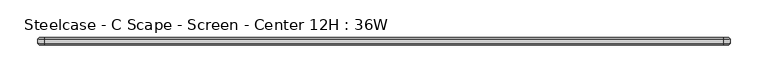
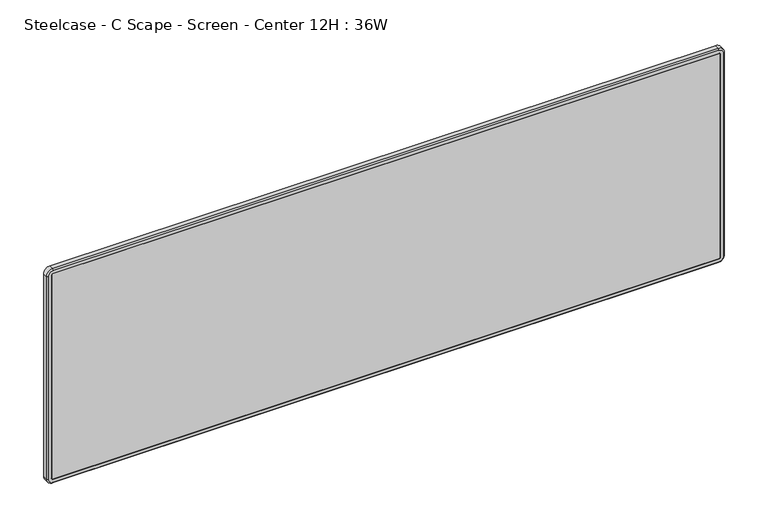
"""IFC4 building model written with IfcOpenShell, lengths in millimetres: furniture geometry, Steelcase - C Scape - Screen - Center 12H : 36W."""

from ifc_helpers import new_model, si_unit, frame, origin, place, context, project, spatial, polyline, circle_curve, outline, extrude, source, transform, mapped, element, save
from ifc_brep_helpers import plane_surface, cylinder_surface, revolved_surface, advanced_brep


def steelcase_c_scape_screen_center_12h_36w_db45eb66(model_context):
    return source(origin(), model_context, "Body", "SolidModel", [
        advanced_brep(
        [(6.3501994, -7.9375, 975.2694951), (8.21859, -7.9375, 977.1378857), (8.21859, -17.4625, 977.1378857), (6.3501994, -17.4625, 975.2694951), (0.0002237, -9.6896209, 975.2694951), (8.21859, -9.6896209, 983.4878614), (8.21859, -7.9375, 981.7357406), (1.7523445, -7.9375, 975.2694951), (0.0002237, -15.7098203, 975.2694951), (8.21859, -15.7098203, 983.4878614), (1.7529034, -17.4625, 975.2694951), (8.21859, -17.4625, 981.7351817), (6.3501994, -17.4625, 686.9063005), (6.3501994, -7.9375, 686.9063005), (1.7523445, -7.9375, 686.9063005), (0.0002237, -9.6896209, 686.9063005), (0.0002237, -15.7098203, 686.9063005), (1.7529034, -17.4625, 686.9063005), (8.21859, -7.9375, 685.0379099), (8.21859, -17.4625, 685.0379099), (8.21859, -9.6896209, 678.6879341), (8.21859, -7.9375, 680.440055), (8.21859, -15.7098203, 678.6879341), (8.21859, -17.4625, 680.4406139), (903.006615, -17.4625, 685.0379099), (903.006615, -7.9375, 685.0379099), (903.006615, -7.9375, 680.440055), (903.006615, -9.6896209, 678.6879341), (903.006615, -15.7098203, 678.6879341), (903.006615, -17.4625, 680.4406139), (904.8750056, -7.9375, 686.9063005), (904.8750056, -17.4625, 686.9063005), (911.2249814, -9.6896209, 686.9063005), (909.4728605, -7.9375, 686.9063005), (911.2249814, -15.7098203, 686.9063005), (909.4723017, -17.4625, 686.9063005), (904.8750056, -17.4625, 975.2694951), (904.8750056, -7.9375, 975.2694951), (909.4728605, -7.9375, 975.2694951), (911.2249814, -9.6896209, 975.2694951), (911.2249814, -15.7098203, 975.2694951), (909.4723017, -17.4625, 975.2694951), (903.006615, -7.9375, 977.1378857), (903.006615, -17.4625, 977.1378857), (903.006615, -7.9375, 981.7357406), (903.006615, -9.6896209, 983.4878614), (903.006615, -15.7098203, 983.4878614), (903.006615, -17.4625, 981.7351817)],
        [
            (0, 1, circle_curve(frame((8.21859, -7.9375, 975.2694951), z_axis=(0.0, 1.0, 0.0), x_axis=(0.0, 0.0, 1.0)), 1.8683906)),
            (1, 2),
            (2, 3, circle_curve(frame((8.21859, -17.4625, 975.2694951), z_axis=(0.0, -1.0, 0.0), x_axis=(0.0, 0.0, 1.0)), 1.8683906)),
            (3, 0),
            (4, 5, circle_curve(frame((8.21859, -9.6896209, 975.2694951), z_axis=(0.0, 1.0, 0.0), x_axis=(0.0, 0.0, 1.0)), 8.2183664)),
            (5, 6),
            (6, 7, circle_curve(frame((8.21859, -7.9375, 975.2694951), z_axis=(0.0, -1.0, 0.0), x_axis=(0.0, 0.0, 1.0)), 6.4662455)),
            (7, 4),
            (8, 9, circle_curve(frame((8.21859, -15.7098203, 975.2694951), z_axis=(0.0, 1.0, 0.0), x_axis=(0.0, 0.0, 1.0)), 8.2183664)),
            (9, 5),
            (4, 8),
            (10, 11, circle_curve(frame((8.21859, -17.4625, 975.2694951), z_axis=(0.0, 1.0, 0.0), x_axis=(0.0, 0.0, 1.0)), 6.4656866)),
            (11, 9),
            (8, 10),
            (3, 12),
            (12, 13),
            (13, 0),
            (7, 14),
            (14, 15),
            (15, 4),
            (15, 16),
            (16, 8),
            (16, 17),
            (17, 10),
            (18, 13, circle_curve(frame((8.21859, -7.9375, 686.9063005), z_axis=(0.0, 1.0, 0.0), x_axis=(-1.0, 0.0, 0.0)), 1.8683906)),
            (12, 19, circle_curve(frame((8.21859, -17.4625, 686.9063005), z_axis=(0.0, -1.0, 0.0), x_axis=(-1.0, 0.0, 0.0)), 1.8683906)),
            (19, 18),
            (20, 15, circle_curve(frame((8.21859, -9.6896209, 686.9063005), z_axis=(0.0, 1.0, 0.0), x_axis=(-1.0, 0.0, 0.0)), 8.2183664)),
            (14, 21, circle_curve(frame((8.21859, -7.9375, 686.9063005), z_axis=(0.0, -1.0, 0.0), x_axis=(-1.0, 0.0, 0.0)), 6.4662455)),
            (21, 20),
            (22, 16, circle_curve(frame((8.21859, -15.7098203, 686.9063005), z_axis=(0.0, 1.0, 0.0), x_axis=(-1.0, 0.0, 0.0)), 8.2183664)),
            (20, 22),
            (23, 17, circle_curve(frame((8.21859, -17.4625, 686.9063005), z_axis=(0.0, 1.0, 0.0), x_axis=(-1.0, 0.0, 0.0)), 6.4656866)),
            (22, 23),
            (19, 24),
            (24, 25),
            (25, 18),
            (21, 26),
            (26, 27),
            (27, 20),
            (27, 28),
            (28, 22),
            (28, 29),
            (29, 23),
            (30, 25, circle_curve(frame((903.006615, -7.9375, 686.9063005), z_axis=(0.0, 1.0, 0.0), x_axis=(0.0, 0.0, -1.0)), 1.8683906)),
            (24, 31, circle_curve(frame((903.006615, -17.4625, 686.9063005), z_axis=(0.0, -1.0, 0.0), x_axis=(0.0, 0.0, -1.0)), 1.8683906)),
            (31, 30),
            (32, 27, circle_curve(frame((903.006615, -9.6896209, 686.9063005), z_axis=(0.0, 1.0, 0.0), x_axis=(0.0, 0.0, -1.0)), 8.2183664)),
            (26, 33, circle_curve(frame((903.006615, -7.9375, 686.9063005), z_axis=(0.0, -1.0, 0.0), x_axis=(0.0, 0.0, -1.0)), 6.4662455)),
            (33, 32),
            (34, 28, circle_curve(frame((903.006615, -15.7098203, 686.9063005), z_axis=(0.0, 1.0, 0.0), x_axis=(0.0, 0.0, -1.0)), 8.2183664)),
            (32, 34),
            (35, 29, circle_curve(frame((903.006615, -17.4625, 686.9063005), z_axis=(0.0, 1.0, 0.0), x_axis=(0.0, 0.0, -1.0)), 6.4656866)),
            (34, 35),
            (31, 36),
            (36, 37),
            (37, 30),
            (33, 38),
            (38, 39),
            (39, 32),
            (39, 40),
            (40, 34),
            (40, 41),
            (41, 35),
            (42, 37, circle_curve(frame((903.006615, -7.9375, 975.2694951), z_axis=(0.0, 1.0, 0.0), x_axis=(1.0, 0.0, 0.0)), 1.8683906)),
            (36, 43, circle_curve(frame((903.006615, -17.4625, 975.2694951), z_axis=(0.0, -1.0, 0.0), x_axis=(1.0, 0.0, 0.0)), 1.8683906)),
            (43, 42),
            (44, 38, circle_curve(frame((903.006615, -7.9375, 975.2694951), z_axis=(0.0, 1.0, 0.0), x_axis=(1.0, 0.0, 0.0)), 6.4662455)),
            (6, 44),
            (42, 1),
            (45, 39, circle_curve(frame((903.006615, -9.6896209, 975.2694951), z_axis=(0.0, 1.0, 0.0), x_axis=(1.0, 0.0, 0.0)), 8.2183664)),
            (44, 45),
            (46, 40, circle_curve(frame((903.006615, -15.7098203, 975.2694951), z_axis=(0.0, 1.0, 0.0), x_axis=(1.0, 0.0, 0.0)), 8.2183664)),
            (45, 46),
            (47, 41, circle_curve(frame((903.006615, -17.4625, 975.2694951), z_axis=(0.0, 1.0, 0.0), x_axis=(1.0, 0.0, 0.0)), 6.4656866)),
            (46, 47),
            (47, 11),
            (2, 43),
            (5, 45),
            (9, 46),
        ],
        [
            revolved_surface(polyline([(8.21859, -17.4625, 977.1378857), (8.21859, -7.9375, 977.1378857)]), (8.21859, -7.9375, 975.2694951), (0.0, -1.0, 0.0)),
            revolved_surface(polyline([(8.21859, -7.9375, 981.7357406), (8.21859, -9.6896209, 983.4878614)]), (8.21859, -7.9375, 975.2694951), (0.0, -1.0, 0.0)),
            cylinder_surface(frame((8.21859, -7.9375, 975.2694951), z_axis=(0.0, -1.0, 0.0), x_axis=(0.0, 0.0, 1.0)), 8.2183664),
            revolved_surface(polyline([(8.21859, -15.7098203, 983.4878614), (8.21859, -17.4625, 981.7351817)]), (8.21859, -7.9375, 975.2694951), (0.0, -1.0, 0.0)),
            plane_surface(frame((6.3501994, -17.4625, 975.2694951), z_axis=(1.0, 0.0, 0.0), x_axis=(0.0, 0.0, -1.0))),
            plane_surface(frame((1.7523445, -7.9375, 975.2694951), z_axis=(-0.7071067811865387, 0.7071067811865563, 0.0), x_axis=(0.0, 0.0, -1.0))),
            plane_surface(frame((0.0002237, -9.6896209, 975.2694951), z_axis=(-1.0, 0.0, 0.0), x_axis=(0.0, 0.0, -1.0))),
            plane_surface(frame((0.0002237, -15.7098203, 975.2694951), z_axis=(-0.7071067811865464, -0.7071067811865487, 0.0), x_axis=(0.0, 0.0, -1.0))),
            revolved_surface(polyline([(6.350199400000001, -17.4625, 686.9063005), (6.350199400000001, -7.9375, 686.9063005)]), (8.21859, -7.9375, 686.9063005), (0.0, -1.0, 0.0)),
            revolved_surface(polyline([(1.7523445, -7.9375, 686.9063005), (0.0002237, -9.6896209, 686.9063005)]), (8.21859, -7.9375, 686.9063005), (0.0, -1.0, 0.0)),
            cylinder_surface(frame((8.21859, -7.9375, 686.9063005), z_axis=(0.0, -1.0, 0.0), x_axis=(-1.0, 0.0, 0.0)), 8.2183664),
            revolved_surface(polyline([(0.0002237, -15.7098203, 686.9063005), (1.7529034, -17.4625, 686.9063005)]), (8.21859, -7.9375, 686.9063005), (0.0, -1.0, 0.0)),
            plane_surface(frame((8.21859, -17.4625, 685.0379099), z_axis=(0.0, 0.0, 1.0), x_axis=(1.0, 0.0, 0.0))),
            plane_surface(frame((8.21859, -7.9375, 680.440055), z_axis=(0.0, 0.7071067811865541, -0.7071067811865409), x_axis=(1.0, 0.0, 0.0))),
            plane_surface(frame((8.21859, -9.6896209, 678.6879341), z_axis=(0.0, 0.0, -1.0), x_axis=(1.0, 0.0, 0.0))),
            plane_surface(frame((8.21859, -15.7098203, 678.6879341), z_axis=(0.0, -0.7071067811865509, -0.7071067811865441), x_axis=(1.0, 0.0, 0.0))),
            revolved_surface(polyline([(903.006615, -17.4625, 685.0379099), (903.006615, -7.9375, 685.0379099)]), (903.006615, -7.9375, 686.9063005), (0.0, -1.0, 0.0)),
            revolved_surface(polyline([(903.006615, -7.9375, 680.440055), (903.006615, -9.6896209, 678.6879341)]), (903.006615, -7.9375, 686.9063005), (0.0, -1.0, 0.0)),
            cylinder_surface(frame((903.006615, -7.9375, 686.9063005), z_axis=(0.0, -1.0, 0.0), x_axis=(0.0, 0.0, -1.0)), 8.2183664),
            revolved_surface(polyline([(903.006615, -15.7098203, 678.6879341), (903.006615, -17.4625, 680.4406139)]), (903.006615, -7.9375, 686.9063005), (0.0, -1.0, 0.0)),
            plane_surface(frame((904.8750056, -17.4625, 686.9063005), z_axis=(-1.0, 0.0, 0.0), x_axis=(0.0, 0.0, 1.0))),
            plane_surface(frame((909.4728605, -7.9375, 686.9063005), z_axis=(0.7071067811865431, 0.7071067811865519, 0.0), x_axis=(0.0, 0.0, 1.0))),
            plane_surface(frame((911.2249814, -9.6896209, 686.9063005), z_axis=(1.0, 0.0, 0.0), x_axis=(0.0, 0.0, 1.0))),
            plane_surface(frame((911.2249814, -15.7098203, 686.9063005), z_axis=(0.7071067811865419, -0.7071067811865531, 0.0), x_axis=(0.0, 0.0, 1.0))),
            revolved_surface(polyline([(904.8750056, -17.4625, 975.2694951), (904.8750056, -7.9375, 975.2694951)]), (903.006615, -7.9375, 975.2694951), (0.0, -1.0, 0.0)),
            plane_surface(frame((903.006615, -7.9375, 975.2694951), z_axis=(0.0, 1.0, 0.0), x_axis=(1.0, 0.0, 0.0))),
            revolved_surface(polyline([(909.4728605, -7.9375, 975.2694951), (911.2249814, -9.6896209, 975.2694951)]), (903.006615, -7.9375, 975.2694951), (0.0, -1.0, 0.0)),
            cylinder_surface(frame((903.006615, -7.9375, 975.2694951), z_axis=(0.0, -1.0, 0.0), x_axis=(1.0, 0.0, 0.0)), 8.2183664),
            revolved_surface(polyline([(911.2249814, -15.7098203, 975.2694951), (909.4723017, -17.4625, 975.2694951)]), (903.006615, -7.9375, 975.2694951), (0.0, -1.0, 0.0)),
            plane_surface(frame((903.006615, -17.4625, 975.2694951), z_axis=(0.0, -1.0, 0.0), x_axis=(1.0, 0.0, 0.0))),
            plane_surface(frame((903.006615, -17.4625, 977.1378857), z_axis=(0.0, 0.0, -1.0), x_axis=(-1.0, 0.0, 0.0))),
            plane_surface(frame((903.006615, -7.9375, 981.7357406), z_axis=(0.0, 0.7071067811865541, 0.7071067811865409), x_axis=(-1.0, 0.0, 0.0))),
            plane_surface(frame((903.006615, -9.6896209, 983.4878614), z_axis=(0.0, 0.0, 1.0), x_axis=(-1.0, 0.0, 0.0))),
            plane_surface(frame((903.006615, -15.7098203, 983.4878614), z_axis=(0.0, -0.7071067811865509, 0.7071067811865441), x_axis=(-1.0, 0.0, 0.0))),
        ],
        [
            (0, [[1, 2, 3, 4]]),
            (1, [[5, 6, 7, 8]]),
            (2, [[9, 10, -5, 11]]),
            (3, [[12, 13, -9, 14]]),
            (4, [[-4, 15, 16, 17]]),
            (5, [[-8, 18, 19, 20]]),
            (6, [[-11, -20, 21, 22]]),
            (7, [[-14, -22, 23, 24]]),
            (8, [[25, -16, 26, 27]]),
            (9, [[28, -19, 29, 30]]),
            (10, [[31, -21, -28, 32]]),
            (11, [[33, -23, -31, 34]]),
            (12, [[-27, 35, 36, 37]]),
            (13, [[-30, 38, 39, 40]]),
            (14, [[-32, -40, 41, 42]]),
            (15, [[-34, -42, 43, 44]]),
            (16, [[45, -36, 46, 47]]),
            (17, [[48, -39, 49, 50]]),
            (18, [[51, -41, -48, 52]]),
            (19, [[53, -43, -51, 54]]),
            (20, [[-47, 55, 56, 57]]),
            (21, [[-50, 58, 59, 60]]),
            (22, [[-52, -60, 61, 62]]),
            (23, [[-54, -62, 63, 64]]),
            (24, [[65, -56, 66, 67]]),
            (25, [[68, -58, -49, -38, -29, -18, -7, 69], [-37, -45, -57, -65, 70, -1, -17, -25]]),
            (26, [[71, -59, -68, 72]]),
            (27, [[73, -61, -71, 74]]),
            (28, [[75, -63, -73, 76]]),
            (29, [[-44, -53, -64, -75, 77, -12, -24, -33], [-66, -55, -46, -35, -26, -15, -3, 78]]),
            (30, [[-67, -78, -2, -70]]),
            (31, [[-72, -69, -6, 79]]),
            (32, [[-74, -79, -10, 80]]),
            (33, [[-76, -80, -13, -77]]),
        ],
    ),
        extrude(outline(polyline([(904.8750056, -7.9375), (904.8750056, -17.4625), (6.3501994, -17.4625), (6.3501994, -7.9375), (904.8750056, -7.9375)])), frame((0.0, 0.0, 685.0379099), z_axis=(0.0, 0.0, 1.0), x_axis=(1.0, 0.0, 0.0)), (0.0, 0.0, 1.0), 292.0999758),
    ])


if __name__ == "__main__":
    model = new_model("IFC4")
    model_context = context("Model", 3, world=origin())
    ifc_project = project(units=[si_unit("LENGTHUNIT", "METRE", prefix="MILLI")], contexts=[model_context])
    site = spatial("IfcSite", under=ifc_project)
    building = spatial("IfcBuilding", under=site)
    placement = place(None, origin())
    steelcase_c_scape_screen_center_12h_36w_shape = steelcase_c_scape_screen_center_12h_36w_db45eb66(model_context)
    element("IfcFurniture", 1, ObjectType="Steelcase - C Scape - Screen - Center 12H : 36W", at=placement, inside=building, context=model_context, shape_type="MappedRepresentation", body=[
        mapped(steelcase_c_scape_screen_center_12h_36w_shape, transform((0.0, 0.0, 0.0), x_axis=(1.0, 0.0, 0.0), y_axis=(0.0, 1.0, 0.0), z_axis=(0.0, 0.0, 1.0))),
    ])
    save(model, "model.ifc")
